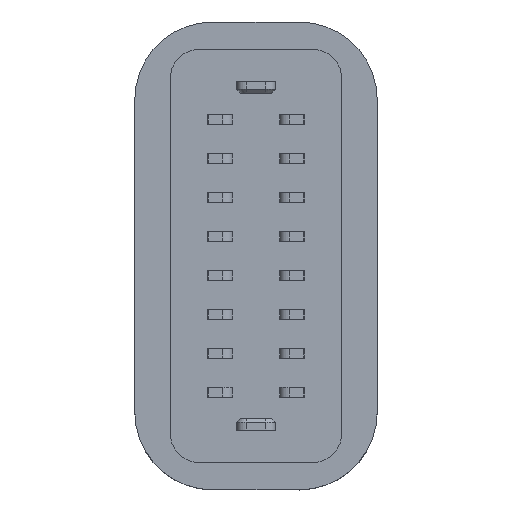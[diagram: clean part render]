
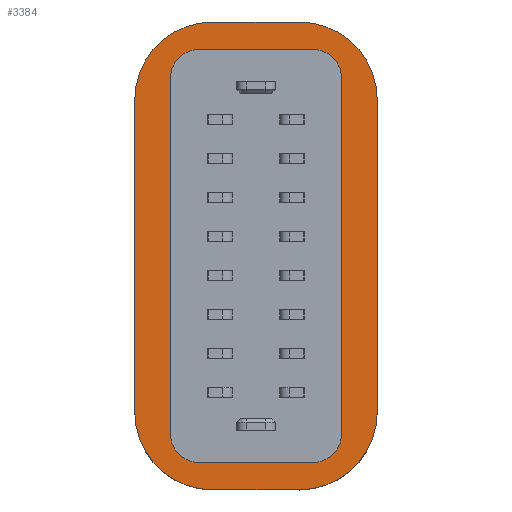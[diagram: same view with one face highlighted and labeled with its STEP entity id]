
A CAD part, top view. The second image highlights one B-rep face of the part: STEP entity #3384.
In plain terms, the highlighted planar face has unit normal (0, 0, 1).
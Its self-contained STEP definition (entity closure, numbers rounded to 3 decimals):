
#26 = CIRCLE ( 'NONE', #14922, 0.75 ) ;
#108 = VERTEX_POINT ( 'NONE', #12632 ) ;
#126 = CARTESIAN_POINT ( 'NONE',  ( 5.094, -41.89, 10.667 ) ) ;
#132 = AXIS2_PLACEMENT_3D ( 'NONE', #14657, #10513, #10774 ) ;
#220 = VECTOR ( 'NONE', #26084, 1000. ) ;
#313 = LINE ( 'NONE', #11472, #9108 ) ;
#333 = EDGE_CURVE ( 'NONE', #21700, #18603, #13097, .T. ) ;
#449 = VERTEX_POINT ( 'NONE', #16489 ) ;
#737 = ORIENTED_EDGE ( 'NONE', *, *, #4101, .T. ) ;
#762 = CARTESIAN_POINT ( 'NONE',  ( 2.534, -51.74, 10.667 ) ) ;
#926 = AXIS2_PLACEMENT_3D ( 'NONE', #4665, #22694, #12537 ) ;
#995 = ORIENTED_EDGE ( 'NONE', *, *, #18772, .T. ) ;
#1024 = EDGE_CURVE ( 'NONE', #5816, #21700, #13217, .T. ) ;
#1185 = CARTESIAN_POINT ( 'NONE',  ( 0.874, -51.19, 10.667 ) ) ;
#1278 = VECTOR ( 'NONE', #9899, 1000. ) ;
#1415 = DIRECTION ( 'NONE',  ( 0., -1., 0. ) ) ;
#1661 = ORIENTED_EDGE ( 'NONE', *, *, #11089, .T. ) ;
#1983 = CARTESIAN_POINT ( 'NONE',  ( 6.184, -51.74, 10.667 ) ) ;
#2137 = DIRECTION ( 'NONE',  ( 0., 1., 0. ) ) ;
#2176 = VERTEX_POINT ( 'NONE', #12152 ) ;
#2216 = CARTESIAN_POINT ( 'NONE',  ( 0.874, -51.19, 10.667 ) ) ;
#2886 = DIRECTION ( 'NONE',  ( 0., 0., -1. ) ) ;
#2963 = CARTESIAN_POINT ( 'NONE',  ( 5.094, -41.19, 10.667 ) ) ;
#3092 = DIRECTION ( 'NONE',  ( -1., 0., 0. ) ) ;
#3112 = ORIENTED_EDGE ( 'NONE', *, *, #5681, .T. ) ;
#3271 = DIRECTION ( 'NONE',  ( 0., 1., 0. ) ) ;
#3384 = ADVANCED_FACE ( 'NONE', ( #8543, #16690 ), #24827, .T. ) ;
#3426 = LINE ( 'NONE', #25831, #22728 ) ;
#3429 = DIRECTION ( 'NONE',  ( 0., -1., 0. ) ) ;
#3673 = DIRECTION ( 'NONE',  ( 0., 0., 1. ) ) ;
#3799 = CARTESIAN_POINT ( 'NONE',  ( 5.094, -51.19, 10.667 ) ) ;
#4041 = ORIENTED_EDGE ( 'NONE', *, *, #5544, .T. ) ;
#4101 = EDGE_CURVE ( 'NONE', #17868, #17090, #15441, .T. ) ;
#4211 = DIRECTION ( 'NONE',  ( 0., -1., 0. ) ) ;
#4359 = EDGE_CURVE ( 'NONE', #17090, #5838, #5754, .T. ) ;
#4649 = LINE ( 'NONE', #23066, #9336 ) ;
#4665 = CARTESIAN_POINT ( 'NONE',  ( 2.534, -42.64, 10.667 ) ) ;
#5346 = AXIS2_PLACEMENT_3D ( 'NONE', #17683, #3673, #1415 ) ;
#5496 = CARTESIAN_POINT ( 'NONE',  ( 6.184, -42.64, 10.667 ) ) ;
#5544 = EDGE_CURVE ( 'NONE', #6797, #26118, #17711, .T. ) ;
#5681 = EDGE_CURVE ( 'NONE', #19694, #10521, #12620, .T. ) ;
#5754 = CIRCLE ( 'NONE', #20677, 0.75 ) ;
#5816 = VERTEX_POINT ( 'NONE', #8967 ) ;
#5838 = VERTEX_POINT ( 'NONE', #18600 ) ;
#6492 = ORIENTED_EDGE ( 'NONE', *, *, #333, .T. ) ;
#6797 = VERTEX_POINT ( 'NONE', #2216 ) ;
#7479 = DIRECTION ( 'NONE',  ( -1., 0., 0. ) ) ;
#8164 = ORIENTED_EDGE ( 'NONE', *, *, #4359, .T. ) ;
#8417 = ORIENTED_EDGE ( 'NONE', *, *, #25758, .T. ) ;
#8517 = CARTESIAN_POINT ( 'NONE',  ( 0.874, -43.19, 10.667 ) ) ;
#8524 = CARTESIAN_POINT ( 'NONE',  ( 5.094, -53.19, 10.667 ) ) ;
#8543 = FACE_OUTER_BOUND ( 'NONE', #24456, .T. ) ;
#8631 = CIRCLE ( 'NONE', #132, 0.75 ) ;
#8967 = CARTESIAN_POINT ( 'NONE',  ( 5.094, -41.19, 10.667 ) ) ;
#9108 = VECTOR ( 'NONE', #7479, 1000. ) ;
#9336 = VECTOR ( 'NONE', #2137, 1000. ) ;
#9899 = DIRECTION ( 'NONE',  ( 1., 0., 0. ) ) ;
#9975 = LINE ( 'NONE', #126, #13414 ) ;
#10513 = DIRECTION ( 'NONE',  ( 0., 0., -1. ) ) ;
#10521 = VERTEX_POINT ( 'NONE', #24473 ) ;
#10774 = DIRECTION ( 'NONE',  ( 0., 1., 0. ) ) ;
#11089 = EDGE_CURVE ( 'NONE', #26118, #19694, #26030, .T. ) ;
#11472 = CARTESIAN_POINT ( 'NONE',  ( 5.094, -52.49, 10.667 ) ) ;
#11890 = CARTESIAN_POINT ( 'NONE',  ( 5.094, -53.19, 10.667 ) ) ;
#11916 = DIRECTION ( 'NONE',  ( 0., -1., 0. ) ) ;
#12014 = DIRECTION ( 'NONE',  ( 0., 0., 1. ) ) ;
#12152 = CARTESIAN_POINT ( 'NONE',  ( 2.534, -41.89, 10.667 ) ) ;
#12196 = DIRECTION ( 'NONE',  ( 0., 0., 1. ) ) ;
#12318 = VERTEX_POINT ( 'NONE', #22071 ) ;
#12416 = CIRCLE ( 'NONE', #25207, 2. ) ;
#12537 = DIRECTION ( 'NONE',  ( 0., 1., 0. ) ) ;
#12620 = CIRCLE ( 'NONE', #18584, 2. ) ;
#12632 = CARTESIAN_POINT ( 'NONE',  ( 1.784, -42.64, 10.667 ) ) ;
#12839 = EDGE_CURVE ( 'NONE', #108, #2176, #19643, .T. ) ;
#13097 = CIRCLE ( 'NONE', #16522, 2. ) ;
#13174 = CARTESIAN_POINT ( 'NONE',  ( 5.094, -43.19, 10.667 ) ) ;
#13217 = LINE ( 'NONE', #2963, #17759 ) ;
#13414 = VECTOR ( 'NONE', #24001, 1000. ) ;
#13433 = CARTESIAN_POINT ( 'NONE',  ( 6.184, -51.19, 10.667 ) ) ;
#14332 = EDGE_CURVE ( 'NONE', #18293, #17868, #8631, .T. ) ;
#14573 = EDGE_CURVE ( 'NONE', #12318, #108, #3426, .T. ) ;
#14657 = CARTESIAN_POINT ( 'NONE',  ( 5.434, -42.64, 10.667 ) ) ;
#14922 = AXIS2_PLACEMENT_3D ( 'NONE', #762, #2886, #3271 ) ;
#15304 = LINE ( 'NONE', #1185, #22788 ) ;
#15441 = LINE ( 'NONE', #13433, #220 ) ;
#15499 = EDGE_CURVE ( 'NONE', #10521, #19016, #4649, .T. ) ;
#15626 = ORIENTED_EDGE ( 'NONE', *, *, #12839, .T. ) ;
#16124 = EDGE_CURVE ( 'NONE', #449, #12318, #26, .T. ) ;
#16365 = CARTESIAN_POINT ( 'NONE',  ( 2.874, -43.19, 10.667 ) ) ;
#16489 = CARTESIAN_POINT ( 'NONE',  ( 2.534, -52.49, 10.667 ) ) ;
#16522 = AXIS2_PLACEMENT_3D ( 'NONE', #16365, #24505, #4211 ) ;
#16690 = FACE_BOUND ( 'NONE', #18538, .T. ) ;
#17090 = VERTEX_POINT ( 'NONE', #1983 ) ;
#17683 = CARTESIAN_POINT ( 'NONE',  ( 2.874, -51.19, 10.667 ) ) ;
#17711 = CIRCLE ( 'NONE', #5346, 2. ) ;
#17759 = VECTOR ( 'NONE', #3092, 1000. ) ;
#17868 = VERTEX_POINT ( 'NONE', #5496 ) ;
#18170 = CARTESIAN_POINT ( 'NONE',  ( 5.094, -51.19, 10.667 ) ) ;
#18293 = VERTEX_POINT ( 'NONE', #18305 ) ;
#18305 = CARTESIAN_POINT ( 'NONE',  ( 5.434, -41.89, 10.667 ) ) ;
#18538 = EDGE_LOOP ( 'NONE', ( #19831, #737, #8164, #23956, #22944, #24906, #15626, #8417 ) ) ;
#18584 = AXIS2_PLACEMENT_3D ( 'NONE', #3799, #12196, #11916 ) ;
#18600 = CARTESIAN_POINT ( 'NONE',  ( 5.434, -52.49, 10.667 ) ) ;
#18603 = VERTEX_POINT ( 'NONE', #8517 ) ;
#18772 = EDGE_CURVE ( 'NONE', #19016, #5816, #12416, .T. ) ;
#19016 = VERTEX_POINT ( 'NONE', #25780 ) ;
#19536 = CARTESIAN_POINT ( 'NONE',  ( 2.874, -41.19, 10.667 ) ) ;
#19643 = CIRCLE ( 'NONE', #926, 0.75 ) ;
#19694 = VERTEX_POINT ( 'NONE', #8524 ) ;
#19831 = ORIENTED_EDGE ( 'NONE', *, *, #14332, .T. ) ;
#20677 = AXIS2_PLACEMENT_3D ( 'NONE', #21419, #23694, #23816 ) ;
#21060 = AXIS2_PLACEMENT_3D ( 'NONE', #18170, #12014, #22451 ) ;
#21328 = DIRECTION ( 'NONE',  ( 0., 0., 1. ) ) ;
#21344 = ORIENTED_EDGE ( 'NONE', *, *, #15499, .T. ) ;
#21419 = CARTESIAN_POINT ( 'NONE',  ( 5.434, -51.74, 10.667 ) ) ;
#21700 = VERTEX_POINT ( 'NONE', #19536 ) ;
#21899 = ORIENTED_EDGE ( 'NONE', *, *, #24991, .T. ) ;
#21972 = CARTESIAN_POINT ( 'NONE',  ( 2.874, -53.19, 10.667 ) ) ;
#22071 = CARTESIAN_POINT ( 'NONE',  ( 1.784, -51.74, 10.667 ) ) ;
#22246 = DIRECTION ( 'NONE',  ( 0., 1., 0. ) ) ;
#22451 = DIRECTION ( 'NONE',  ( 0., -1., 0. ) ) ;
#22694 = DIRECTION ( 'NONE',  ( 0., 0., -1. ) ) ;
#22728 = VECTOR ( 'NONE', #22246, 1000. ) ;
#22788 = VECTOR ( 'NONE', #3429, 1000. ) ;
#22944 = ORIENTED_EDGE ( 'NONE', *, *, #16124, .T. ) ;
#23066 = CARTESIAN_POINT ( 'NONE',  ( 7.094, -51.19, 10.667 ) ) ;
#23694 = DIRECTION ( 'NONE',  ( 0., 0., -1. ) ) ;
#23816 = DIRECTION ( 'NONE',  ( 0., 1., 0. ) ) ;
#23956 = ORIENTED_EDGE ( 'NONE', *, *, #24630, .T. ) ;
#24001 = DIRECTION ( 'NONE',  ( 1., 0., 0. ) ) ;
#24031 = ORIENTED_EDGE ( 'NONE', *, *, #1024, .T. ) ;
#24456 = EDGE_LOOP ( 'NONE', ( #1661, #3112, #21344, #995, #24031, #6492, #21899, #4041 ) ) ;
#24473 = CARTESIAN_POINT ( 'NONE',  ( 7.094, -51.19, 10.667 ) ) ;
#24505 = DIRECTION ( 'NONE',  ( 0., 0., 1. ) ) ;
#24630 = EDGE_CURVE ( 'NONE', #5838, #449, #313, .T. ) ;
#24827 = PLANE ( 'NONE',  #21060 ) ;
#24906 = ORIENTED_EDGE ( 'NONE', *, *, #14573, .T. ) ;
#24991 = EDGE_CURVE ( 'NONE', #18603, #6797, #15304, .T. ) ;
#25207 = AXIS2_PLACEMENT_3D ( 'NONE', #13174, #21328, #25456 ) ;
#25456 = DIRECTION ( 'NONE',  ( 0., -1., 0. ) ) ;
#25758 = EDGE_CURVE ( 'NONE', #2176, #18293, #9975, .T. ) ;
#25780 = CARTESIAN_POINT ( 'NONE',  ( 7.094, -43.19, 10.667 ) ) ;
#25831 = CARTESIAN_POINT ( 'NONE',  ( 1.784, -51.19, 10.667 ) ) ;
#26030 = LINE ( 'NONE', #11890, #1278 ) ;
#26084 = DIRECTION ( 'NONE',  ( 0., -1., 0. ) ) ;
#26118 = VERTEX_POINT ( 'NONE', #21972 ) ;
